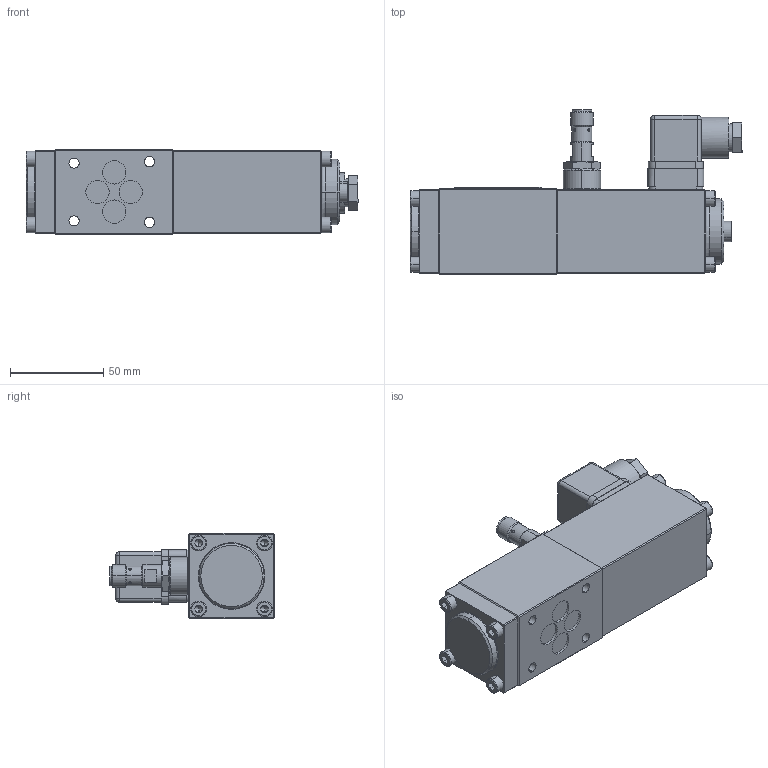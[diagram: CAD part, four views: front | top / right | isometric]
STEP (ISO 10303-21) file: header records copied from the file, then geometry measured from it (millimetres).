
FILE_DESCRIPTION (( 'STEP AP214' ), '1' );
FILE_NAME ('A.22060b-P1b.STEP', '2022-09-23T09:06:38', ( '' ), ( '' ), 'SwSTEP 2.0', 'SolidWorks 2020', '' );
FILE_SCHEMA (( 'AUTOMOTIVE_DESIGN' ));
Length unit declared in the file: millimetre
Products named in the file (1): A.22060b-P1b
Bounding box: 178.25 x 88.5 x 46 mm (x, y, z)
Volume: 370264.7 mm3; surface area: 47092.6 mm2
Topology: 1 solids, 1 shells, 479 faces, 1117 edges, 670 vertices
Faces by surface type: plane 283, cylinder 98, cone 52, bspline 24, torus 22
Entity records: 19398 total; most frequent: CARTESIAN_POINT 3319, DIRECTION 2296, ORIENTED_EDGE 2190, EDGE_CURVE 1095, AXIS2_PLACEMENT_3D 811, VECTOR 674, LINE 674, VERTEX_POINT 670
